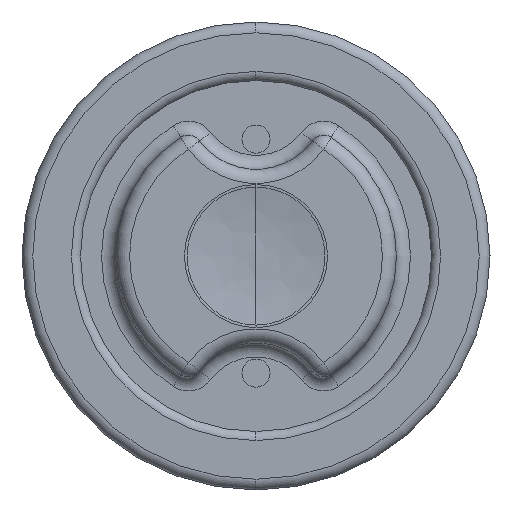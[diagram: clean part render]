
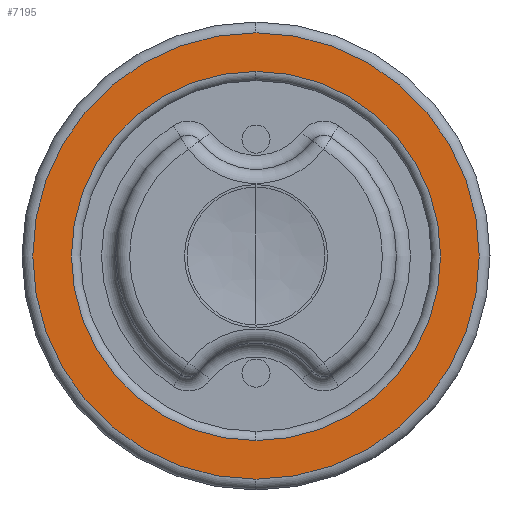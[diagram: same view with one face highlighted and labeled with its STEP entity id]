
A CAD part, left-side view. The second image highlights one B-rep face of the part: STEP entity #7195.
In plain terms, the highlighted planar face has unit normal (-1, 0, 0).
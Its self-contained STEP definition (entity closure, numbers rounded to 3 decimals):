
#2=CARTESIAN_POINT('',(-17.5,0.,0.002));
#3=DIRECTION('',(1.,0.,0.));
#4=DIRECTION('',(0.,0.,-1.));
#5=AXIS2_PLACEMENT_3D('',#2,#3,#4);
#17=CARTESIAN_POINT('',(-17.5,0.,0.002));
#18=DIRECTION('',(-1.,0.,0.));
#19=DIRECTION('',(0.,0.,-1.));
#20=AXIS2_PLACEMENT_3D('',#17,#18,#19);
#398=CARTESIAN_POINT('',(-17.5,0.,0.002));
#399=DIRECTION('',(-1.,0.,0.));
#400=DIRECTION('',(0.,0.,1.));
#401=AXIS2_PLACEMENT_3D('',#398,#399,#400);
#403=CARTESIAN_POINT('',(-17.5,0.,0.002));
#404=DIRECTION('',(-1.,0.,0.));
#405=DIRECTION('',(0.,0.,-1.));
#406=AXIS2_PLACEMENT_3D('',#403,#404,#405);
#4970=CARTESIAN_POINT('',(-17.5,0.,-3.942));
#4972=VERTEX_POINT('',#4970);
#4974=CARTESIAN_POINT('',(-17.5,0.,3.945));
#4976=VERTEX_POINT('',#4974);
#4994=CARTESIAN_POINT('',(-17.5,0.,4.772));
#4995=CARTESIAN_POINT('',(-17.5,0.,-4.768));
#4996=VERTEX_POINT('',#4994);
#4997=VERTEX_POINT('',#4995);
#7180=CARTESIAN_POINT('',(-17.5,0.,0.002));
#7181=DIRECTION('',(1.,0.,0.));
#7182=DIRECTION('',(0.,0.,1.));
#7183=AXIS2_PLACEMENT_3D('',#7180,#7181,#7182);
#7184=PLANE('',#7183);
#7186=ORIENTED_EDGE('',*,*,#7185,.F.);
#7188=ORIENTED_EDGE('',*,*,#7187,.F.);
#7189=EDGE_LOOP('',(#7186,#7188));
#7190=FACE_OUTER_BOUND('',#7189,.F.);
#7191=ORIENTED_EDGE('',*,*,#6585,.T.);
#7192=ORIENTED_EDGE('',*,*,#6567,.F.);
#7193=EDGE_LOOP('',(#7191,#7192));
#7194=FACE_BOUND('',#7193,.F.);
#7195=ADVANCED_FACE('',(#7190,#7194),#7184,.F.);
#6=CIRCLE('',#5,3.944);
#21=CIRCLE('',#20,3.944);
#402=CIRCLE('',#401,4.77);
#407=CIRCLE('',#406,4.77);
#6567=EDGE_CURVE('',#4972,#4976,#6,.T.);
#6585=EDGE_CURVE('',#4972,#4976,#21,.T.);
#7185=EDGE_CURVE('',#4996,#4997,#402,.T.);
#7187=EDGE_CURVE('',#4997,#4996,#407,.T.);
